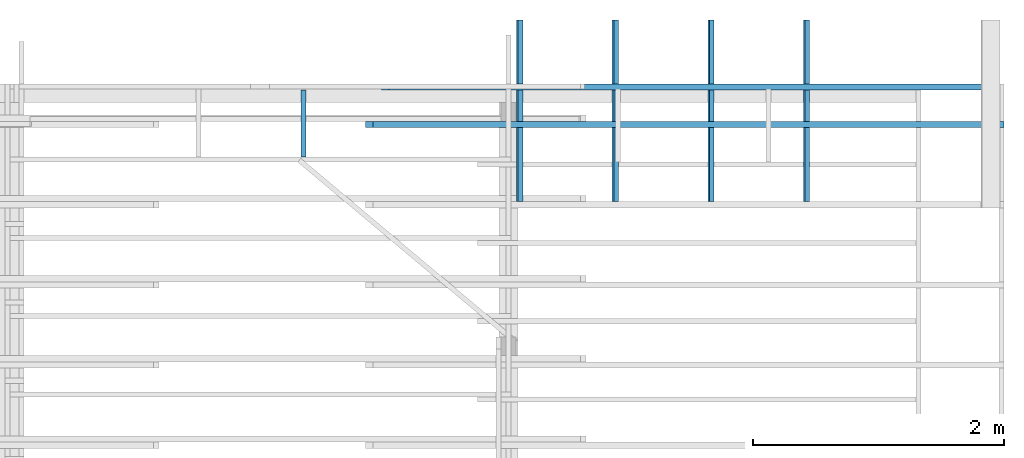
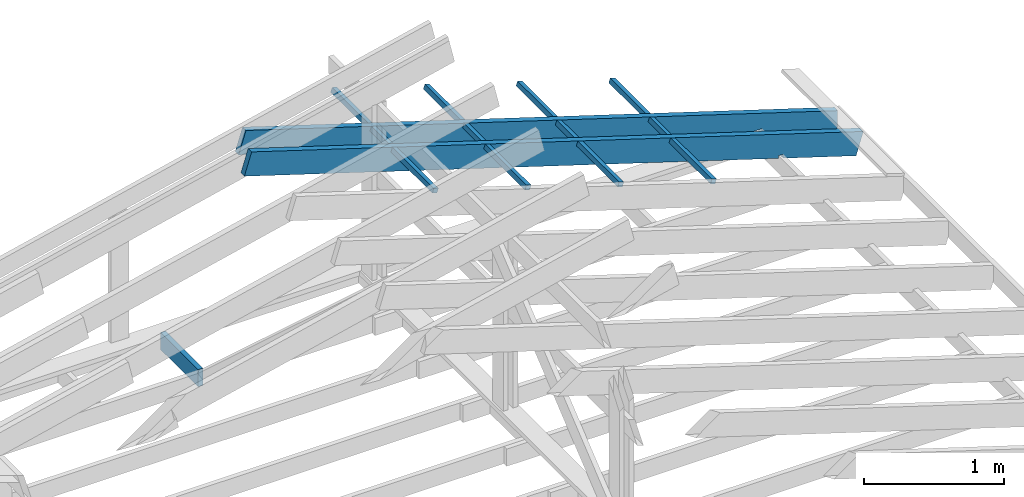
# One storey, part 6 of 6: 7 beams.
"""IFC4 building model written with IfcOpenShell, lengths in millimetres."""

from ifc_helpers import new_model, si_unit, derived_unit, frame, origin_with_axes, place, context, subcontext, project, spatial, polygons, source, transform, mapped, material, type_object, element, save


model = new_model("IFC4")

# Units and contexts
model_context = context("Model", 3, precision=1e-06, world=origin_with_axes())
body_context = subcontext(model_context, "Body", "Model", "MODEL_VIEW")
ifc_project = project(units=[si_unit("LENGTHUNIT", "METRE", prefix="MILLI"), si_unit("AREAUNIT", "SQUARE_METRE"), si_unit("VOLUMEUNIT", "CUBIC_METRE"), si_unit("MASSUNIT", "GRAM", prefix="KILO"), si_unit("ELECTRICVOLTAGEUNIT", "VOLT", prefix="KILO"), si_unit("THERMODYNAMICTEMPERATUREUNIT", "DEGREE_CELSIUS"), si_unit("PRESSUREUNIT", "PASCAL", prefix="MEGA"), si_unit("PLANEANGLEUNIT", "RADIAN"), derived_unit("THERMALCONDUCTANCEUNIT", [(si_unit("POWERUNIT", "WATT"), 1), (si_unit("LENGTHUNIT", "METRE"), -1), (si_unit("THERMODYNAMICTEMPERATUREUNIT", "KELVIN"), -1)]), derived_unit("MASSDENSITYUNIT", [(si_unit("MASSUNIT", "GRAM", prefix="KILO"), 1), (si_unit("VOLUMEUNIT", "CUBIC_METRE"), -1)])], contexts=[model_context])

# Site, building, storey
site_placement = place(None, origin_with_axes())
site = spatial("IfcSite", under=ifc_project, at=site_placement, CompositionType="ELEMENT")
building_placement = place(site_placement, origin_with_axes())
building = spatial("IfcBuilding", under=site, at=building_placement, CompositionType="ELEMENT")
storey_placement = place(building_placement, frame((0.0, 0.0, 2620.0), z_axis=(0.0, 0.0, 1.0), x_axis=(1.0, 0.0, 0.0)))
storey = spatial("IfcBuildingStorey", under=building, at=storey_placement, Name="Кровля", CompositionType="ELEMENT", Elevation=2620.0)

# Beams
ifc_material_1 = material(Name="Древесина жел")
beam_type_1 = type_object("IfcBeamType", Name="Доска 40х150", PredefinedType="BEAM")
shared_shape_1 = source(origin_with_axes(), body_context, "Body", "Tessellation", [
    polygons([(20.0, 150.0, -9.362618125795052), (20.0, 0.0, -9.362618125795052), (20.0, 0.0, -545.0), (20.0, 150.0, -545.0), (-20.0, 150.0, -9.362618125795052), (-20.0, 150.0, -545.0), (-20.0, 0.0, -9.362618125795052), (-20.0, 0.0, -545.0)], [[[1, 2, 3, 4]], [[5, 1, 4, 6]], [[7, 5, 6, 8]], [[2, 7, 8, 3]], [[7, 2, 1, 5]], [[3, 8, 6, 4]]], closed=True),
])
beam_1_placement = place(storey_placement, frame((5913.797541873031, 6945.6373818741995, -9.09e-13), z_axis=(0.0, -1.0, 0.0), x_axis=(0.0, 0.0, 1.0)))
element("IfcBeam", 1, at=beam_1_placement, inside=storey, type_object=beam_type_1, material=ifc_material_1, Name="Балка - Доска 40х150", context=body_context, shape_type="MappedRepresentation", body=[
    mapped(shared_shape_1, transform((0.0, 0.0, 0.0), x_axis=(0.0, -1.0, 0.0), y_axis=(1.0, 0.0, 0.0), z_axis=(0.0, 0.0, 1.0), scale=1.0)),
])
ifc_material_2 = material(Name="Древесина оранж")
beam_type_2 = type_object("IfcBeamType", Name="Доска 50х200", PredefinedType="BEAM")
shared_shape_2 = source(origin_with_axes(), body_context, "Body", "Tessellation", [
    polygons([(-8e-15, -2.13e-13, -4607.735124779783), (-3.638e-12, 22.174739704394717, -4600.756736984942), (-1.819e-12, 34.1821845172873, -4638.911962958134), (-8e-15, -2.19e-13, -4649.669092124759), (0.0, 0.0, -5278.678602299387), (-2.8e-14, 200.0000000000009, -5278.678602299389), (-2.8e-14, 199.9999999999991, -9.09e-13), (0.0, 0.0, 0.0), (-50.00000000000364, 22.1747397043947, -4600.756736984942), (-50.0, -9.9e-14, -4607.735124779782), (-50.0, 0.0, 0.0), (-50.00000000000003, 199.9999999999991, -9.09e-13), (-50.00000000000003, 200.0000000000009, -5278.678602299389), (-50.0, 0.0, -5278.678602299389), (-50.0, -1e-13, -4649.669092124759), (-50.00000000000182, 34.18218451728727, -4638.911962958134)], [[[1, 2, 3, 4, 5, 6, 7, 8]], [[9, 10, 11, 12, 13, 14, 15, 16]], [[10, 1, 8, 11]], [[4, 15, 14, 5]], [[15, 4, 3, 16]], [[9, 16, 3, 2]], [[1, 10, 9, 2]], [[5, 14, 13, 6]], [[12, 7, 6, 13]], [[8, 7, 12, 11]]], closed=True),
])
beam_2_placement = place(storey_placement, frame((6409.770627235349, 7189.999999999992, 1509.9312603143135), z_axis=(-0.953880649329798, 1e-15, 0.300186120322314), x_axis=(0.300186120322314, 0.0, 0.953880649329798)))
element("IfcBeam", 2, at=beam_2_placement, inside=storey, type_object=beam_type_2, material=ifc_material_2, Name="Балка - Доска 50х200", context=body_context, shape_type="MappedRepresentation", body=[
    mapped(shared_shape_2, transform((0.0, 0.0, 0.0), x_axis=(0.0, -1.0, 0.0), y_axis=(1.0, 0.0, 0.0), z_axis=(0.0, 0.0, 1.0), scale=1.0)),
])
shared_shape_3 = source(origin_with_axes(), body_context, "Body", "Tessellation", [
    polygons([(-50.000000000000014, 72.92768120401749, -5145.789689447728), (2.5e-14, 72.92682605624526, -5145.789689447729), (0.0, -9.09e-13, -5145.789689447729), (-50.0, -9.09e-13, -5145.789689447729), (2.534e-12, 72.3374104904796, -4494.015605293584), (3.9e-14, -9.75e-13, -4516.780179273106), (2.728e-12, 199.99914490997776, -5105.800046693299), (3e-15, 199.99999999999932, -5105.802763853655), (0.0, 199.9999999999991, 0.0), (0.0, 0.0, 0.0), (3.9e-14, -9.47e-13, -4264.154024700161), (-49.999999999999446, 200.00000000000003, -5105.800046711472), (-50.0, 199.9999999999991, 0.0), (-50.0, -4.88e-13, -4516.780179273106), (-50.00000000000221, 72.33741049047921, -4494.015605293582), (-50.0, -4.61e-13, -4264.154024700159), (-50.0, 0.0, 0.0)], [[[1, 2, 3, 4]], [[5, 6, 3, 2, 7, 8, 9, 10, 11]], [[8, 12, 13, 9]], [[14, 15, 16, 17, 13, 12, 1, 4]], [[6, 14, 4, 3]], [[16, 11, 10, 17]], [[12, 8, 7]], [[1, 12, 7, 2]], [[11, 16, 15, 5]], [[14, 6, 5, 15]], [[10, 9, 13, 17]]], closed=True),
    polygons([(3.9e-14, -9.65e-13, -4474.8462119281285), (1.65e-12, 22.174739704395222, -4467.8678241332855), (3.9e-14, -9.62e-13, -4397.404689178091), (-10.000000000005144, -8.92e-13, -4474.8462119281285), (-10.000000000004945, 22.17473970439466, -4467.867824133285), (-10.000000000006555, -1.137e-12, -4397.404689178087)], [[[1, 2, 3]], [[1, 4, 5, 2]], [[6, 3, 2, 5]], [[6, 4, 1, 3]], [[4, 6, 5]]], closed=True),
])
beam_3_placement = place(storey_placement, frame((6536.530789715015, 7489.999999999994, 1470.039853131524), z_axis=(-0.953880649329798, 1e-15, 0.300186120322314), x_axis=(0.300186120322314, 0.0, 0.953880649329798)))
element("IfcBeam", 3, at=beam_3_placement, inside=storey, type_object=beam_type_2, material=ifc_material_2, Name="Балка - Доска 50х200", context=body_context, shape_type="MappedRepresentation", body=[
    mapped(shared_shape_3, transform((0.0, 0.0, 0.0), x_axis=(0.0, -1.0, 0.0), y_axis=(1.0, 0.0, 0.0), z_axis=(0.0, 0.0, 1.0), scale=1.0)),
])
ifc_material_3 = material(Name="Древесина зел")
beam_type_3 = type_object("IfcBeamType", Name="Брус 40х40", PredefinedType="BEAM")
shared_shape_4 = source(origin_with_axes(), body_context, "Body", "Tessellation", [
    polygons([(38.12762671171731, -12.09479563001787, -50.00000000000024), (26.03283108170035, -50.22242234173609, -50.00000000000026), (26.03283108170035, -50.22242234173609, -640.0000000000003), (38.12762671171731, -12.09479563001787, -640.0000000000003), (1e-15, 0.0, -50.00000000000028), (1e-15, 0.0, -639.9999999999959), (-12.09479563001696, -38.12762671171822, -50.0000000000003), (-12.09479563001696, -38.12762671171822, -640.0000000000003)], [[[1, 2, 3, 4]], [[5, 1, 4, 6]], [[7, 5, 6, 8]], [[2, 7, 8, 3]], [[3, 8, 6, 4]], [[7, 2, 1, 5]]], closed=True),
    polygons([(38.12762671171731, -12.09479563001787, -990.0000000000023), (26.03283108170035, -50.22242234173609, -990.0000000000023), (26.03283108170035, -50.22242234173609, -1500.0), (38.12762671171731, -12.09479563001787, -1500.0), (-12.09479563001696, -38.12762671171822, -990.0000000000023), (1e-15, 0.0, -990.0000000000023), (-12.09479563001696, -38.12762671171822, -1500.0), (0.0, 0.0, -1500.0)], [[[1, 2, 3, 4]], [[5, 2, 1, 6]], [[2, 5, 7, 3]], [[3, 7, 8, 4]], [[6, 1, 4, 8]], [[5, 6, 8, 7]]], closed=True),
    polygons([(38.12762671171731, -12.09479563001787, -690.0000000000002), (26.03283108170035, -50.22242234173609, -690.0000000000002), (26.03283108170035, -50.22242234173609, -940.0000000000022), (38.12762671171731, -12.09479563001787, -940.0000000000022), (-12.09479563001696, -38.12762671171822, -690.0000000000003), (1e-15, 0.0, -690.0000000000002), (-12.09479563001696, -38.12762671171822, -940.0000000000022), (1e-15, 0.0, -939.9999999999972)], [[[1, 2, 3, 4]], [[5, 2, 1, 6]], [[2, 5, 7, 3]], [[3, 7, 8, 4]], [[6, 1, 4, 8]], [[5, 6, 8, 7]]], closed=True),
])
beam_4_placement = place(storey_placement, frame((7628.285711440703, 6549.99999999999, 1336.1345533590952), z_axis=(0.0, -1.0, 0.0), x_axis=(0.302369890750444, 0.0, 0.953190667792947)))
element("IfcBeam", 4, at=beam_4_placement, inside=storey, type_object=beam_type_3, material=ifc_material_3, Name="Балка - Брус 40х40", context=body_context, shape_type="MappedRepresentation", body=[
    mapped(shared_shape_4, transform((0.0, 0.0, 0.0), x_axis=(0.302369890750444, -0.953190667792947, 0.0), y_axis=(0.953190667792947, 0.302369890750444, 0.0), z_axis=(0.0, 0.0, 1.0), scale=1.0)),
])
shared_shape_5 = source(origin_with_axes(), body_context, "Body", "Tessellation", [
    polygons([(38.12762671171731, -12.09479563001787, -50.00000000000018), (26.03283108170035, -50.22242234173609, -50.0000000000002), (26.03283108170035, -50.22242234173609, -640.0000000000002), (38.12762671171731, -12.09479563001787, -640.0000000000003), (1e-15, 0.0, -50.00000000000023), (1e-15, 0.0, -639.9999999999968), (-12.09479563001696, -38.12762671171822, -50.00000000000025), (-12.09479563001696, -38.12762671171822, -640.0000000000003)], [[[1, 2, 3, 4]], [[5, 1, 4, 6]], [[7, 5, 6, 8]], [[2, 7, 8, 3]], [[3, 8, 6, 4]], [[7, 2, 1, 5]]], closed=True),
    polygons([(38.12762671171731, -12.09479563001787, -990.0000000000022), (26.03283108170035, -50.22242234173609, -990.0000000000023), (26.03283108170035, -50.22242234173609, -1500.0), (38.12762671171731, -12.09479563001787, -1500.0), (-12.09479563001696, -38.12762671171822, -990.0000000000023), (1e-15, 0.0, -990.0000000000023), (-12.09479563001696, -38.12762671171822, -1500.0), (0.0, 0.0, -1500.0)], [[[1, 2, 3, 4]], [[5, 2, 1, 6]], [[2, 5, 7, 3]], [[3, 7, 8, 4]], [[6, 1, 4, 8]], [[5, 6, 8, 7]]], closed=True),
    polygons([(38.12762671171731, -12.09479563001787, -690.0000000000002), (26.03283108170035, -50.22242234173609, -690.0000000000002), (26.03283108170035, -50.22242234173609, -940.000000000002), (38.12762671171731, -12.09479563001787, -940.000000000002), (-12.09479563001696, -38.12762671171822, -690.0000000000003), (1e-15, 0.0, -690.0000000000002), (-12.09479563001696, -38.12762671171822, -940.000000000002), (2e-15, 4e-15, -939.9999999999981)], [[[1, 2, 3, 4]], [[5, 2, 1, 6]], [[2, 5, 7, 3]], [[3, 7, 8, 4]], [[6, 1, 4, 8]], [[5, 6, 8, 7]]], closed=True),
])
beam_5_placement = place(storey_placement, frame((8391.390230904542, 6549.999999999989, 1095.9856571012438), z_axis=(0.0, -1.0, 0.0), x_axis=(0.302369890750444, 0.0, 0.953190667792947)))
element("IfcBeam", 5, at=beam_5_placement, inside=storey, type_object=beam_type_3, material=ifc_material_3, Name="Балка - Брус 40х40", context=body_context, shape_type="MappedRepresentation", body=[
    mapped(shared_shape_5, transform((0.0, 0.0, 0.0), x_axis=(0.302369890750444, -0.953190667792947, 0.0), y_axis=(0.953190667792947, 0.302369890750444, 0.0), z_axis=(0.0, 0.0, 1.0), scale=1.0)),
])
shared_shape_6 = source(origin_with_axes(), body_context, "Body", "Tessellation", [
    polygons([(38.12762671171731, -12.09479563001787, -50.000000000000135), (26.03283108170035, -50.22242234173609, -50.00000000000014), (26.03283108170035, -50.22242234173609, -640.0000000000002), (38.12762671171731, -12.09479563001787, -640.0000000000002), (1e-15, 0.0, -50.00000000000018), (1e-15, 0.0, -639.9999999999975), (-12.09479563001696, -38.12762671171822, -50.0000000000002), (-12.09479563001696, -38.12762671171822, -640.0000000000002)], [[[1, 2, 3, 4]], [[5, 1, 4, 6]], [[7, 5, 6, 8]], [[2, 7, 8, 3]], [[3, 8, 6, 4]], [[7, 2, 1, 5]]], closed=True),
    polygons([(38.12762671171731, -12.09479563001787, -990.0000000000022), (26.03283108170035, -50.22242234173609, -990.000000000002), (26.03283108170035, -50.22242234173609, -1500.0), (38.12762671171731, -12.09479563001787, -1500.0), (-12.09479563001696, -38.12762671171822, -990.0000000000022), (1e-15, 0.0, -990.0000000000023), (-12.09479563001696, -38.12762671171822, -1500.0), (0.0, 0.0, -1500.0)], [[[1, 2, 3, 4]], [[5, 2, 1, 6]], [[2, 5, 7, 3]], [[3, 7, 8, 4]], [[6, 1, 4, 8]], [[5, 6, 8, 7]]], closed=True),
    polygons([(38.12762671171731, -12.09479563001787, -690.0000000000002), (26.03283108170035, -50.22242234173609, -690.0000000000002), (26.03283108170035, -50.22242234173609, -940.0000000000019), (38.12762671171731, -12.09479563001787, -940.0000000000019), (-12.09479563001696, -38.12762671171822, -690.0000000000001), (1e-15, 0.0, -690.0000000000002), (-12.09479563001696, -38.12762671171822, -940.000000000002), (1e-15, 0.0, -939.999999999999)], [[[1, 2, 3, 4]], [[5, 2, 1, 6]], [[2, 5, 7, 3]], [[3, 7, 8, 4]], [[6, 1, 4, 8]], [[5, 6, 8, 7]]], closed=True),
])
beam_6_placement = place(storey_placement, frame((9154.49475036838, 6549.999999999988, 855.8367608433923), z_axis=(0.0, -1.0, 0.0), x_axis=(0.302369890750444, 0.0, 0.953190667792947)))
element("IfcBeam", 6, at=beam_6_placement, inside=storey, type_object=beam_type_3, material=ifc_material_3, Name="Балка - Брус 40х40", context=body_context, shape_type="MappedRepresentation", body=[
    mapped(shared_shape_6, transform((0.0, 0.0, 0.0), x_axis=(0.302369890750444, -0.953190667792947, 0.0), y_axis=(0.953190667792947, 0.302369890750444, 0.0), z_axis=(0.0, 0.0, 1.0), scale=1.0)),
])
shared_shape_7 = source(origin_with_axes(), body_context, "Body", "Tessellation", [
    polygons([(38.12762671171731, -12.09479563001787, -50.00000000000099), (26.03283108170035, -50.22242234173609, -50.000000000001), (26.03283108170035, -50.22242234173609, -640.000000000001), (38.12762671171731, -12.09479563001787, -640.000000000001), (1e-15, 0.0, -50.00000000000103), (1e-15, 0.0, -639.9999999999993), (-12.09479563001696, -38.12762671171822, -50.00000000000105), (-12.09479563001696, -38.12762671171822, -640.000000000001)], [[[1, 2, 3, 4]], [[5, 1, 4, 6]], [[7, 5, 6, 8]], [[2, 7, 8, 3]], [[3, 8, 6, 4]], [[7, 2, 1, 5]]], closed=True),
    polygons([(38.12762671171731, -12.09479563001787, -990.000000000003), (26.03283108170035, -50.22242234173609, -990.000000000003), (26.03283108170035, -50.22242234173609, -1500.0), (38.12762671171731, -12.09479563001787, -1500.0), (-12.09479563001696, -38.12762671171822, -990.000000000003), (0.0, -4e-15, -990.000000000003), (-12.09479563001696, -38.12762671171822, -1500.0), (0.0, 0.0, -1500.0)], [[[1, 2, 3, 4]], [[5, 2, 1, 6]], [[2, 5, 7, 3]], [[3, 7, 8, 4]], [[6, 1, 4, 8]], [[5, 6, 8, 7]]], closed=True),
    polygons([(38.12762671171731, -12.09479563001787, -690.0000000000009), (26.03283108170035, -50.22242234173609, -690.0000000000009), (26.03283108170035, -50.22242234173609, -940.0000000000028), (38.12762671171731, -12.09479563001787, -940.0000000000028), (-12.09479563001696, -38.12762671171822, -690.000000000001), (1e-15, 0.0, -690.0000000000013), (-12.09479563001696, -38.12762671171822, -940.0000000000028), (0.0, -4e-15, -940.0000000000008)], [[[1, 2, 3, 4]], [[5, 2, 1, 6]], [[2, 5, 7, 3]], [[3, 7, 8, 4]], [[6, 1, 4, 8]], [[5, 6, 8, 7]]], closed=True),
])
beam_7_placement = place(storey_placement, frame((9917.599269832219, 6549.999999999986, 615.6878645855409), z_axis=(0.0, -1.0, 0.0), x_axis=(0.302369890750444, 0.0, 0.953190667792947)))
element("IfcBeam", 7, at=beam_7_placement, inside=storey, type_object=beam_type_3, material=ifc_material_3, Name="Балка - Брус 40х40", context=body_context, shape_type="MappedRepresentation", body=[
    mapped(shared_shape_7, transform((0.0, 0.0, 0.0), x_axis=(0.302369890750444, -0.953190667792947, 0.0), y_axis=(0.953190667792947, 0.302369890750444, 0.0), z_axis=(0.0, 0.0, 1.0), scale=1.0)),
])

save(model, "model.ifc")
